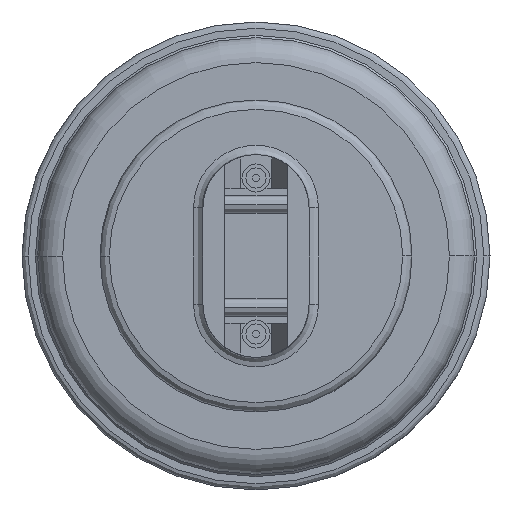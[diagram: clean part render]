
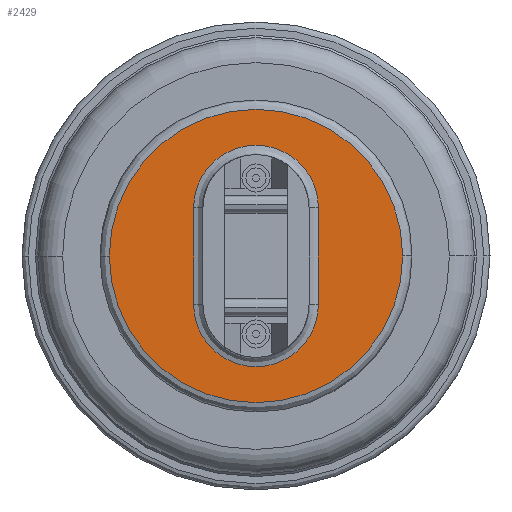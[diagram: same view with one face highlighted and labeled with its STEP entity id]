
A CAD part, left-side view. The second image highlights one B-rep face of the part: STEP entity #2429.
In plain terms, the highlighted planar face has unit normal (-1, 0, 0).
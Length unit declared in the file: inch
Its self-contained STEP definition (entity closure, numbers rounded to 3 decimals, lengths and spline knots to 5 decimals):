
#69 = CARTESIAN_POINT ( 'NONE',  ( -22.5, 0.2, -0.155 ) ) ;
#84 = VERTEX_POINT ( 'NONE', #2341 ) ;
#116 = EDGE_LOOP ( 'NONE', ( #3704, #465 ) ) ;
#159 = DIRECTION ( 'NONE',  ( 0., 1., 0. ) ) ;
#196 = LINE ( 'NONE', #2664, #1704 ) ;
#303 = DIRECTION ( 'NONE',  ( 0., -1., 0. ) ) ;
#358 = ORIENTED_EDGE ( 'NONE', *, *, #538, .T. ) ;
#465 = ORIENTED_EDGE ( 'NONE', *, *, #3802, .F. ) ;
#510 = VERTEX_POINT ( 'NONE', #1140 ) ;
#538 = EDGE_CURVE ( 'NONE', #1785, #510, #196, .T. ) ;
#569 = VERTEX_POINT ( 'NONE', #3576 ) ;
#578 = CARTESIAN_POINT ( 'NONE',  ( -22.5, 0., 0. ) ) ;
#709 = LINE ( 'NONE', #3572, #1505 ) ;
#723 = DIRECTION ( 'NONE',  ( 1., 0., 0. ) ) ;
#819 = CARTESIAN_POINT ( 'NONE',  ( -22.5, 0., -0.155 ) ) ;
#1006 = CARTESIAN_POINT ( 'NONE',  ( -22.5, -0.2, 0.155 ) ) ;
#1025 = EDGE_CURVE ( 'NONE', #569, #1785, #3121, .T. ) ;
#1127 = DIRECTION ( 'NONE',  ( 0., -1., 0. ) ) ;
#1140 = CARTESIAN_POINT ( 'NONE',  ( -22.5, -0.2, -0.155 ) ) ;
#1141 = AXIS2_PLACEMENT_3D ( 'NONE', #578, #2098, #303 ) ;
#1227 = DIRECTION ( 'NONE',  ( 1., 0., 0. ) ) ;
#1458 = AXIS2_PLACEMENT_3D ( 'NONE', #3776, #1963, #159 ) ;
#1493 = EDGE_CURVE ( 'NONE', #1695, #569, #709, .T. ) ;
#1505 = VECTOR ( 'NONE', #2059, 39.37008 ) ;
#1561 = DIRECTION ( 'NONE',  ( 0., -1., 0. ) ) ;
#1695 = VERTEX_POINT ( 'NONE', #69 ) ;
#1704 = VECTOR ( 'NONE', #3272, 39.37008 ) ;
#1709 = CARTESIAN_POINT ( 'NONE',  ( -22.5, -0.47, 0. ) ) ;
#1785 = VERTEX_POINT ( 'NONE', #1006 ) ;
#1800 = CIRCLE ( 'NONE', #2029, 0.47 ) ;
#1963 = DIRECTION ( 'NONE',  ( 1., 0., 0. ) ) ;
#1998 = EDGE_CURVE ( 'NONE', #510, #1695, #3733, .T. ) ;
#2029 = AXIS2_PLACEMENT_3D ( 'NONE', #3051, #1227, #3349 ) ;
#2059 = DIRECTION ( 'NONE',  ( 0., 0., 1. ) ) ;
#2098 = DIRECTION ( 'NONE',  ( -1., 0., 0. ) ) ;
#2215 = FACE_OUTER_BOUND ( 'NONE', #116, .T. ) ;
#2341 = CARTESIAN_POINT ( 'NONE',  ( -22.5, 0.47, 0. ) ) ;
#2429 = ADVANCED_FACE ( 'NONE', ( #3834, #2215 ), #3906, .T. ) ;
#2632 = CARTESIAN_POINT ( 'NONE',  ( -22.5, 0., 0.155 ) ) ;
#2664 = CARTESIAN_POINT ( 'NONE',  ( -22.5, -0.2, 0. ) ) ;
#2710 = EDGE_CURVE ( 'NONE', #84, #3280, #3781, .T. ) ;
#2818 = EDGE_LOOP ( 'NONE', ( #3624, #3902, #3025, #358 ) ) ;
#2946 = DIRECTION ( 'NONE',  ( 1., 0., 0. ) ) ;
#3025 = ORIENTED_EDGE ( 'NONE', *, *, #1025, .T. ) ;
#3051 = CARTESIAN_POINT ( 'NONE',  ( -22.5, 0., 0. ) ) ;
#3121 = CIRCLE ( 'NONE', #3393, 0.2 ) ;
#3272 = DIRECTION ( 'NONE',  ( 0., 0., -1. ) ) ;
#3280 = VERTEX_POINT ( 'NONE', #1709 ) ;
#3349 = DIRECTION ( 'NONE',  ( 0., 1., 0. ) ) ;
#3393 = AXIS2_PLACEMENT_3D ( 'NONE', #2632, #723, #1561 ) ;
#3572 = CARTESIAN_POINT ( 'NONE',  ( -22.5, 0.2, 0. ) ) ;
#3576 = CARTESIAN_POINT ( 'NONE',  ( -22.5, 0.2, 0.155 ) ) ;
#3624 = ORIENTED_EDGE ( 'NONE', *, *, #1998, .T. ) ;
#3704 = ORIENTED_EDGE ( 'NONE', *, *, #2710, .F. ) ;
#3733 = CIRCLE ( 'NONE', #3866, 0.2 ) ;
#3776 = CARTESIAN_POINT ( 'NONE',  ( -22.5, 0., 0. ) ) ;
#3781 = CIRCLE ( 'NONE', #1458, 0.47 ) ;
#3802 = EDGE_CURVE ( 'NONE', #3280, #84, #1800, .T. ) ;
#3834 = FACE_BOUND ( 'NONE', #2818, .T. ) ;
#3866 = AXIS2_PLACEMENT_3D ( 'NONE', #819, #2946, #1127 ) ;
#3902 = ORIENTED_EDGE ( 'NONE', *, *, #1493, .T. ) ;
#3906 = PLANE ( 'NONE',  #1141 ) ;
